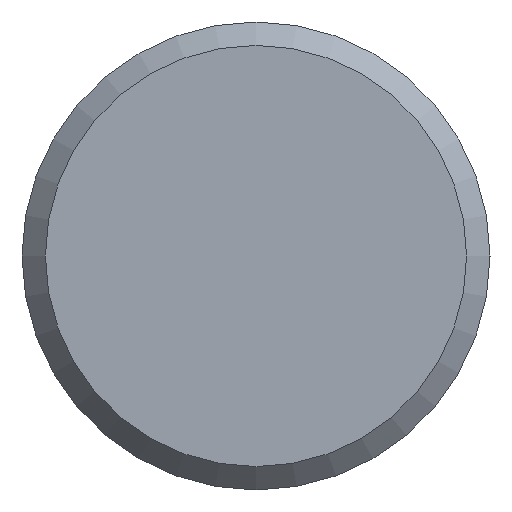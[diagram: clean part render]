
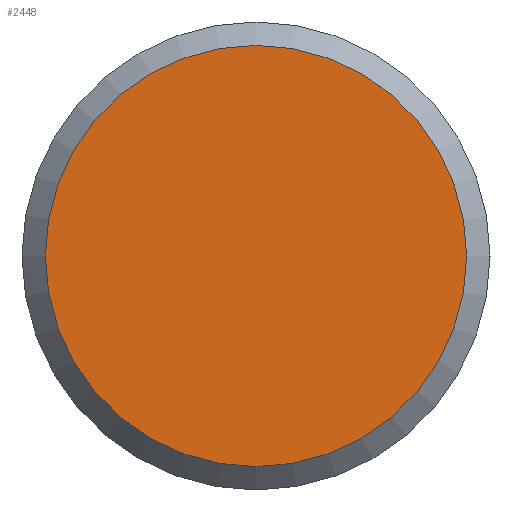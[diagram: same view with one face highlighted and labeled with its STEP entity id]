
A CAD part, left-side view. The second image highlights one B-rep face of the part: STEP entity #2448.
In plain terms, the highlighted planar face has unit normal (-1, 0, 0).
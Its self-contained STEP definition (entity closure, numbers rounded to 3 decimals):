
#899=PLANE('',#2280);
#949=ORIENTED_EDGE('',*,*,#1273,.T.);
#1109=CIRCLE('',#2279,4.5);
#1191=VERTEX_POINT('',#2030);
#1273=EDGE_CURVE('',#1191,#1191,#1109,.T.);
#1359=EDGE_LOOP('',(#949));
#1523=FACE_BOUND('',#1359,.T.);
#1694=DIRECTION('',(-1.,0.,0.));
#1695=DIRECTION('',(0.,-4.5,0.));
#1696=DIRECTION('',(-1.,0.,0.));
#1697=DIRECTION('',(0.,1.,0.));
#2030=CARTESIAN_POINT('',(31.712,201.802,0.));
#2031=CARTESIAN_POINT('',(31.712,206.302,0.));
#2032=CARTESIAN_POINT('',(31.712,206.302,0.));
#2279=AXIS2_PLACEMENT_3D('',#2031,#1694,#1695);
#2280=AXIS2_PLACEMENT_3D('',#2032,#1696,#1697);
#2448=ADVANCED_FACE('',(#1523),#899,.T.);
